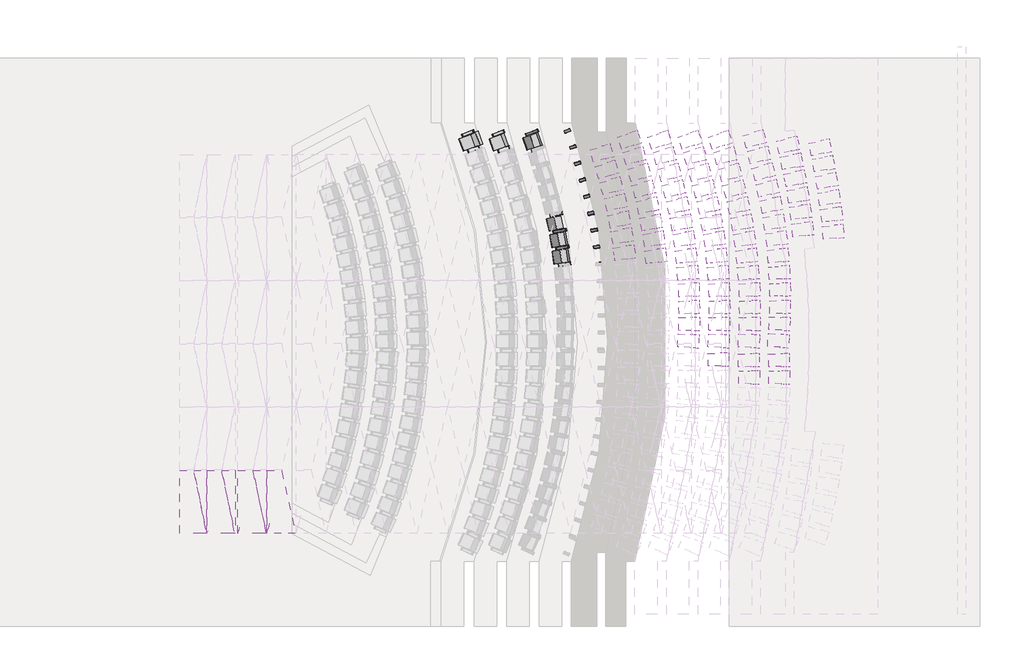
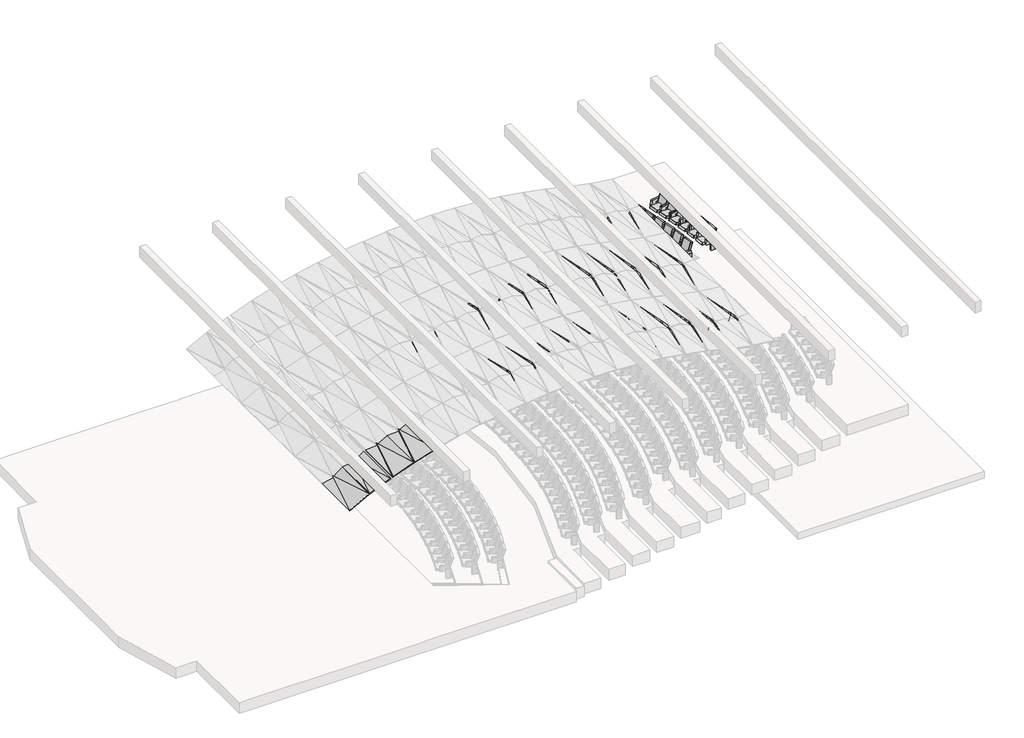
# One storey, part 4 of 5: 98 furniture elements, 4 proxies.
"""IFC4 building model written with IfcOpenShell, lengths in millimetres."""

from ifc_helpers import new_model, si_unit, origin, place, context, project, spatial, transform, mapped, element, save
from components import generic_models_b7cadb70, generic_models_e6cef362, generic_models_786d5ee3, generic_models_b94cf159, flex_6035_revit_flex_6035_revit_dbd431f0, flex_6035_revit_flex_6035_revit_8256f512

model = new_model("IFC4")

# Units and contexts
model_context = context("Model", 3, world=origin())
ifc_project = project(units=[si_unit("LENGTHUNIT", "METRE", prefix="MILLI")], contexts=[model_context])

# Site, building, storey
site = spatial("IfcSite", under=ifc_project)
building = spatial("IfcBuilding", under=site)
storey = spatial("IfcBuildingStorey", under=building, Name="0 WYSOKI PARTER", Elevation=0.0)

# Proxies
placement = place(None, origin())
generic_models_shape = generic_models_b7cadb70(model_context)
element("IfcBuildingElementProxy", 1, Name="panel sufitowy 6 : panel sufitowy 6", ObjectType="panel sufitowy 6 : panel sufitowy 6", at=placement, inside=storey, context=model_context, shape_type="MappedRepresentation", body=[
    mapped(generic_models_shape, transform((135632.7214389, 50845.1997788, 5259.4400615), x_axis=(-1.0, 0.0, 0.0), y_axis=(0.0, -1.0, 0.0), z_axis=(0.0, 0.0, 1.0))),
])
generic_models_2_shape = generic_models_e6cef362(model_context)
element("IfcBuildingElementProxy", 2, Name="panel sufitowy 6 : panel sufitowy 6", ObjectType="panel sufitowy 6 : panel sufitowy 6", at=placement, inside=storey, context=model_context, shape_type="MappedRepresentation", body=[
    mapped(generic_models_2_shape, transform((134659.1615643, 50845.1997788, 4964.216617), x_axis=(-1.0, 0.0, 0.0), y_axis=(0.0, -1.0, 0.0), z_axis=(0.0, 0.0, 1.0))),
])
generic_models_3_shape = generic_models_786d5ee3(model_context)
element("IfcBuildingElementProxy", 3, Name="panel sufitowy 6 : panel sufitowy 6", ObjectType="panel sufitowy 6 : panel sufitowy 6", at=placement, inside=storey, context=model_context, shape_type="MappedRepresentation", body=[
    mapped(generic_models_3_shape, transform((133610.0646602, 50845.1997788, 4599.555071), x_axis=(-1.0, 0.0, 0.0), y_axis=(0.0, -1.0, 0.0), z_axis=(0.0, 0.0, 1.0))),
])
generic_models_4_shape = generic_models_b94cf159(model_context)
element("IfcBuildingElementProxy", 4, Name="panel sufitowy 6 : panel sufitowy 6", ObjectType="panel sufitowy 6 : panel sufitowy 6", at=placement, inside=storey, context=model_context, shape_type="MappedRepresentation", body=[
    mapped(generic_models_4_shape, transform((132659.3547582, 50845.1997788, 4219.9166313), x_axis=(-1.0, 0.0, 0.0), y_axis=(0.0, -1.0, 0.0), z_axis=(0.0, 0.0, 1.0))),
])

# Furniture
flex_6035_revit_flex_6035_revit_shape = flex_6035_revit_flex_6035_revit_dbd431f0(model_context)
element("IfcFurniture", 5, ObjectType="flex_6035 revit : flex_6035 revit", at=placement, inside=storey, context=model_context, shape_type="MappedRepresentation", body=[
    mapped(flex_6035_revit_flex_6035_revit_shape, transform((149382.2167334, 56842.1523486, 2293.0), x_axis=(0.02060598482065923, -0.999787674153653, 0.0), y_axis=(0.999787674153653, 0.02060598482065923, 0.0), z_axis=(0.0, 0.0, 1.0))),
])
element("IfcFurniture", 6, ObjectType="flex_6035 revit : flex_6035 revit", at=placement, inside=storey, context=model_context, shape_type="MappedRepresentation", body=[
    mapped(flex_6035_revit_flex_6035_revit_shape, transform((150392.7739178, 56255.8254256, 2616.0), x_axis=(-0.013926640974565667, -0.999903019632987, 0.0), y_axis=(0.999903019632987, -0.013926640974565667, 0.0), z_axis=(0.0, 0.0, 1.0))),
])
element("IfcFurniture", 7, ObjectType="flex_6035 revit : flex_6035 revit", at=placement, inside=storey, context=model_context, shape_type="MappedRepresentation", body=[
    mapped(flex_6035_revit_flex_6035_revit_shape, transform((150381.9682109, 56819.8592265, 2616.0), x_axis=(0.02060598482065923, -0.999787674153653, 0.0), y_axis=(0.999787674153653, 0.02060598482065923, 0.0), z_axis=(0.0, 0.0, 1.0))),
])
element("IfcFurniture", 8, ObjectType="flex_6035 revit : flex_6035 revit", at=placement, inside=storey, context=model_context, shape_type="MappedRepresentation", body=[
    mapped(flex_6035_revit_flex_6035_revit_shape, transform((151393.0137306, 56255.8254256, 2945.0), x_axis=(-0.013926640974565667, -0.999903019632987, 0.0), y_axis=(0.999903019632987, -0.013926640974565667, 0.0), z_axis=(0.0, 0.0, 1.0))),
])
element("IfcFurniture", 9, ObjectType="flex_6035 revit : flex_6035 revit", at=placement, inside=storey, context=model_context, shape_type="MappedRepresentation", body=[
    mapped(flex_6035_revit_flex_6035_revit_shape, transform((151382.2080237, 56819.8592265, 2945.0), x_axis=(0.02060598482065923, -0.999787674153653, 0.0), y_axis=(0.999787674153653, 0.02060598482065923, 0.0), z_axis=(0.0, 0.0, 1.0))),
])
flex_6035_revit_flex_6035_revit_2_shape = flex_6035_revit_flex_6035_revit_8256f512(model_context)
element("IfcFurniture", 10, ObjectType="flex_6035 revit : flex_6035 revit", at=placement, inside=storey, context=model_context, shape_type="MappedRepresentation", body=[
    mapped(flex_6035_revit_flex_6035_revit_2_shape, transform((141196.0586013, 64067.9023012, 252.0), x_axis=(-0.3483684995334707, 0.9373576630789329, 0.0), y_axis=(-0.9373576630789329, -0.3483684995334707, 0.0), z_axis=(0.0, 0.0, 1.0))),
])
element("IfcFurniture", 11, ObjectType="flex_6035 revit : flex_6035 revit", at=placement, inside=storey, context=model_context, shape_type="MappedRepresentation", body=[
    mapped(flex_6035_revit_flex_6035_revit_2_shape, transform((142196.0589624, 64067.9023012, 516.0), x_axis=(-0.3483684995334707, 0.9373576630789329, 0.0), y_axis=(-0.9373576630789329, -0.3483684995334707, 0.0), z_axis=(0.0, 0.0, 1.0))),
])
element("IfcFurniture", 12, ObjectType="flex_6035 revit : flex_6035 revit", at=placement, inside=storey, context=model_context, shape_type="MappedRepresentation", body=[
    mapped(flex_6035_revit_flex_6035_revit_2_shape, transform((144177.3848225, 60826.4289256, 791.0), x_axis=(-0.18377887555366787, 0.9829676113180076, 0.0), y_axis=(-0.9829676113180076, -0.18377887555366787, 0.0), z_axis=(0.0, 0.0, 1.0))),
])
element("IfcFurniture", 13, ObjectType="flex_6035 revit : flex_6035 revit", at=placement, inside=storey, context=model_context, shape_type="MappedRepresentation", body=[
    mapped(flex_6035_revit_flex_6035_revit_2_shape, transform((144254.4349505, 60267.5596233, 791.0), x_axis=(-0.14972971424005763, 0.988726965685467, 0.0), y_axis=(-0.988726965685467, -0.14972971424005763, 0.0), z_axis=(0.0, 0.0, 1.0))),
])
element("IfcFurniture", 14, ObjectType="flex_6035 revit : flex_6035 revit", at=placement, inside=storey, context=model_context, shape_type="MappedRepresentation", body=[
    mapped(flex_6035_revit_flex_6035_revit_2_shape, transform((144077.6643298, 61368.9308082, 791.0), x_axis=(-0.21724572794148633, 0.9761169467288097, 0.0), y_axis=(-0.9761169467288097, -0.21724572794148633, 0.0), z_axis=(0.0, 0.0, 1.0))),
])
element("IfcFurniture", 15, ObjectType="flex_6035 revit : flex_6035 revit", at=placement, inside=storey, context=model_context, shape_type="MappedRepresentation", body=[
    mapped(flex_6035_revit_flex_6035_revit_2_shape, transform((143307.6299924, 64092.2979394, 791.0), x_axis=(-0.33255405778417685, 0.9430841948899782, 0.0), y_axis=(-0.9430841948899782, -0.33255405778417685, 0.0), z_axis=(0.0, 0.0, 1.0))),
])
element("IfcFurniture", 16, ObjectType="flex_6035 revit : flex_6035 revit", at=placement, inside=storey, context=model_context, shape_type="MappedRepresentation", body=[
    mapped(flex_6035_revit_flex_6035_revit_2_shape, transform((144697.2502765, 63030.1228614, 1074.0), x_axis=(-0.3074445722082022, 0.9515659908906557, 0.0), y_axis=(-0.9515659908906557, -0.3074445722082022, 0.0), z_axis=(0.0, 0.0, 1.0))),
])
element("IfcFurniture", 17, ObjectType="flex_6035 revit : flex_6035 revit", at=placement, inside=storey, context=model_context, shape_type="MappedRepresentation", body=[
    mapped(flex_6035_revit_flex_6035_revit_2_shape, transform((144846.5500626, 62486.1511513, 1074.0), x_axis=(-0.27440589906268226, 0.961613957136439, 0.0), y_axis=(-0.961613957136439, -0.27440589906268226, 0.0), z_axis=(0.0, 0.0, 1.0))),
])
element("IfcFurniture", 18, ObjectType="flex_6035 revit : flex_6035 revit", at=placement, inside=storey, context=model_context, shape_type="MappedRepresentation", body=[
    mapped(flex_6035_revit_flex_6035_revit_2_shape, transform((144986.0565979, 61939.7497267, 1074.0), x_axis=(-0.24103999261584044, 0.9705151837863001, 0.0), y_axis=(-0.9705151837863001, -0.24103999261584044, 0.0), z_axis=(0.0, 0.0, 1.0))),
])
element("IfcFurniture", 19, ObjectType="flex_6035 revit : flex_6035 revit", at=placement, inside=storey, context=model_context, shape_type="MappedRepresentation", body=[
    mapped(flex_6035_revit_flex_6035_revit_2_shape, transform((145197.963732, 60831.7939354, 1074.0), x_axis=(-0.17348598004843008, 0.9848363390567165, 0.0), y_axis=(-0.9848363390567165, -0.17348598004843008, 0.0), z_axis=(0.0, 0.0, 1.0))),
])
element("IfcFurniture", 20, ObjectType="flex_6035 revit : flex_6035 revit", at=placement, inside=storey, context=model_context, shape_type="MappedRepresentation", body=[
    mapped(flex_6035_revit_flex_6035_revit_2_shape, transform((145269.1633035, 60272.1491906, 1074.0), x_axis=(-0.1393784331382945, 0.9902391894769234, 0.0), y_axis=(-0.9902391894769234, -0.1393784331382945, 0.0), z_axis=(0.0, 0.0, 1.0))),
])
element("IfcFurniture", 21, ObjectType="flex_6035 revit : flex_6035 revit", at=placement, inside=storey, context=model_context, shape_type="MappedRepresentation", body=[
    mapped(flex_6035_revit_flex_6035_revit_2_shape, transform((145103.9238165, 61375.3093109, 1074.0), x_axis=(-0.20702266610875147, 0.978336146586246, 0.0), y_axis=(-0.978336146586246, -0.20702266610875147, 0.0), z_axis=(0.0, 0.0, 1.0))),
])
element("IfcFurniture", 22, ObjectType="flex_6035 revit : flex_6035 revit", at=placement, inside=storey, context=model_context, shape_type="MappedRepresentation", body=[
    mapped(flex_6035_revit_flex_6035_revit_2_shape, transform((144362.4207998, 64106.5827664, 1074.0), x_axis=(-0.32267024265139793, 0.9465114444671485, 0.0), y_axis=(-0.9465114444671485, -0.32267024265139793, 0.0), z_axis=(0.0, 0.0, 1.0))),
])
element("IfcFurniture", 23, ObjectType="flex_6035 revit : flex_6035 revit", at=placement, inside=storey, context=model_context, shape_type="MappedRepresentation", body=[
    mapped(flex_6035_revit_flex_6035_revit_2_shape, transform((144531.4184839, 63576.9190616, 1074.0), x_axis=(-0.27440589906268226, 0.961613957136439, 0.0), y_axis=(-0.961613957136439, -0.27440589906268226, 0.0), z_axis=(0.0, 0.0, 1.0))),
])
element("IfcFurniture", 24, ObjectType="flex_6035 revit : flex_6035 revit", at=placement, inside=storey, context=model_context, shape_type="MappedRepresentation", body=[
    mapped(flex_6035_revit_flex_6035_revit_2_shape, transform((145694.1659692, 63130.8225719, 1367.0), x_axis=(-0.310466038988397, 0.9505844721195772, 0.0), y_axis=(-0.9505844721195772, -0.310466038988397, 0.0), z_axis=(0.0, 0.0, 1.0))),
])
element("IfcFurniture", 25, ObjectType="flex_6035 revit : flex_6035 revit", at=placement, inside=storey, context=model_context, shape_type="MappedRepresentation", body=[
    mapped(flex_6035_revit_flex_6035_revit_2_shape, transform((145845.1931389, 62587.3279155, 1367.0), x_axis=(-0.2774594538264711, 0.9607373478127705, 0.0), y_axis=(-0.9607373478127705, -0.2774594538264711, 0.0), z_axis=(0.0, 0.0, 1.0))),
])
element("IfcFurniture", 26, ObjectType="flex_6035 revit : flex_6035 revit", at=placement, inside=storey, context=model_context, shape_type="MappedRepresentation", body=[
    mapped(flex_6035_revit_flex_6035_revit_2_shape, transform((145986.4348261, 62041.3724448, 1367.0), x_axis=(-0.24412199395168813, 0.9697445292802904, 0.0), y_axis=(-0.9697445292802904, -0.24412199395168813, 0.0), z_axis=(0.0, 0.0, 1.0))),
])
element("IfcFurniture", 27, ObjectType="flex_6035 revit : flex_6035 revit", at=placement, inside=storey, context=model_context, shape_type="MappedRepresentation", body=[
    mapped(flex_6035_revit_flex_6035_revit_2_shape, transform((146201.8607419, 60934.0954497, 1367.0), x_axis=(-0.1766138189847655, 0.9842802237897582, 0.0), y_axis=(-0.9842802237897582, -0.1766138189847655, 0.0), z_axis=(0.0, 0.0, 1.0))),
])
element("IfcFurniture", 28, ObjectType="flex_6035 revit : flex_6035 revit", at=placement, inside=storey, context=model_context, shape_type="MappedRepresentation", body=[
    mapped(flex_6035_revit_flex_6035_revit_2_shape, transform((146274.8378826, 60374.6797221, 1367.0), x_axis=(-0.14252360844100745, 0.989791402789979, 0.0), y_axis=(-0.989791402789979, -0.14252360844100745, 0.0), z_axis=(0.0, 0.0, 1.0))),
])
element("IfcFurniture", 29, ObjectType="flex_6035 revit : flex_6035 revit", at=placement, inside=storey, context=model_context, shape_type="MappedRepresentation", body=[
    mapped(flex_6035_revit_flex_6035_revit_2_shape, transform((146106.0946137, 61477.3093283, 1367.0), x_axis=(-0.21012968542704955, 0.9776735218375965, 0.0), y_axis=(-0.9776735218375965, -0.21012968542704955, 0.0), z_axis=(0.0, 0.0, 1.0))),
])
element("IfcFurniture", 30, ObjectType="flex_6035 revit : flex_6035 revit", at=placement, inside=storey, context=model_context, shape_type="MappedRepresentation", body=[
    mapped(flex_6035_revit_flex_6035_revit_2_shape, transform((145526.5979033, 63677.0891837, 1367.0), x_axis=(-0.2774594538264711, 0.9607373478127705, 0.0), y_axis=(-0.9607373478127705, -0.2774594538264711, 0.0), z_axis=(0.0, 0.0, 1.0))),
])
element("IfcFurniture", 31, ObjectType="flex_6035 revit : flex_6035 revit", at=placement, inside=storey, context=model_context, shape_type="MappedRepresentation", body=[
    mapped(flex_6035_revit_flex_6035_revit_2_shape, transform((146765.9358226, 63034.940876, 1668.0), x_axis=(-0.2983146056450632, 0.9544675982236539, 0.0), y_axis=(-0.9544675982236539, -0.2983146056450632, 0.0), z_axis=(0.0, 0.0, 1.0))),
])
element("IfcFurniture", 32, ObjectType="flex_6035 revit : flex_6035 revit", at=placement, inside=storey, context=model_context, shape_type="MappedRepresentation", body=[
    mapped(flex_6035_revit_flex_6035_revit_2_shape, transform((146910.0175907, 62489.5638582, 1668.0), x_axis=(-0.26518119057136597, 0.9641985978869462, 0.0), y_axis=(-0.9641985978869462, -0.26518119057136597, 0.0), z_axis=(0.0, 0.0, 1.0))),
])
element("IfcFurniture", 33, ObjectType="flex_6035 revit : flex_6035 revit", at=placement, inside=storey, context=model_context, shape_type="MappedRepresentation", body=[
    mapped(flex_6035_revit_flex_6035_revit_2_shape, transform((147044.2832812, 61941.8510552, 1668.0), x_axis=(-0.2317315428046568, 0.9727797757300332, 0.0), y_axis=(-0.9727797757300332, -0.2317315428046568, 0.0), z_axis=(0.0, 0.0, 1.0))),
])
element("IfcFurniture", 34, ObjectType="flex_6035 revit : flex_6035 revit", at=placement, inside=storey, context=model_context, shape_type="MappedRepresentation", body=[
    mapped(flex_6035_revit_flex_6035_revit_2_shape, transform((147245.566642, 60831.9160671, 1668.0), x_axis=(-0.16404343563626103, 0.9864531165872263, 0.0), y_axis=(-0.9864531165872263, -0.16404343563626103, 0.0), z_axis=(0.0, 0.0, 1.0))),
])
element("IfcFurniture", 35, ObjectType="flex_6035 revit : flex_6035 revit", at=placement, inside=storey, context=model_context, shape_type="MappedRepresentation", body=[
    mapped(flex_6035_revit_flex_6035_revit_2_shape, transform((147311.4016342, 60271.6149221, 1668.0), x_axis=(-0.12988569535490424, 0.991528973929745, 0.0), y_axis=(-0.991528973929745, -0.12988569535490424, 0.0), z_axis=(0.0, 0.0, 1.0))),
])
element("IfcFurniture", 36, ObjectType="flex_6035 revit : flex_6035 revit", at=placement, inside=storey, context=model_context, shape_type="MappedRepresentation", body=[
    mapped(flex_6035_revit_flex_6035_revit_2_shape, transform((147156.7378371, 61376.3073902, 1668.0), x_axis=(-0.19764085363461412, 0.9802744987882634, 0.0), y_axis=(-0.9802744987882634, -0.19764085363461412, 0.0), z_axis=(0.0, 0.0, 1.0))),
])
element("IfcFurniture", 37, ObjectType="flex_6035 revit : flex_6035 revit", at=placement, inside=storey, context=model_context, shape_type="MappedRepresentation", body=[
    mapped(flex_6035_revit_flex_6035_revit_2_shape, transform((146441.4340339, 64114.5590005, 1668.0), x_axis=(-0.3135879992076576, 0.9495591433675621, 0.0), y_axis=(-0.9495591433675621, -0.3135879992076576, 0.0), z_axis=(0.0, 0.0, 1.0))),
])
element("IfcFurniture", 38, ObjectType="flex_6035 revit : flex_6035 revit", at=placement, inside=storey, context=model_context, shape_type="MappedRepresentation", body=[
    mapped(flex_6035_revit_flex_6035_revit_2_shape, transform((146605.3498647, 63583.3006285, 1668.0), x_axis=(-0.26518119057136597, 0.9641985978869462, 0.0), y_axis=(-0.9641985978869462, -0.26518119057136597, 0.0), z_axis=(0.0, 0.0, 1.0))),
])
element("IfcFurniture", 39, ObjectType="flex_6035 revit : flex_6035 revit", at=placement, inside=storey, context=model_context, shape_type="MappedRepresentation", body=[
    mapped(flex_6035_revit_flex_6035_revit_2_shape, transform((147765.9361878, 63034.940876, 1977.0), x_axis=(-0.2983146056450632, 0.9544675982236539, 0.0), y_axis=(-0.9544675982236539, -0.2983146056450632, 0.0), z_axis=(0.0, 0.0, 1.0))),
])
element("IfcFurniture", 40, ObjectType="flex_6035 revit : flex_6035 revit", at=placement, inside=storey, context=model_context, shape_type="MappedRepresentation", body=[
    mapped(flex_6035_revit_flex_6035_revit_2_shape, transform((147910.0179559, 62489.5638582, 1977.0), x_axis=(-0.26518119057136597, 0.9641985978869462, 0.0), y_axis=(-0.9641985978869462, -0.26518119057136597, 0.0), z_axis=(0.0, 0.0, 1.0))),
])
element("IfcFurniture", 41, ObjectType="flex_6035 revit : flex_6035 revit", at=placement, inside=storey, context=model_context, shape_type="MappedRepresentation", body=[
    mapped(flex_6035_revit_flex_6035_revit_2_shape, transform((148044.2836463, 61941.8510552, 1977.0), x_axis=(-0.2317315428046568, 0.9727797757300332, 0.0), y_axis=(-0.9727797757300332, -0.2317315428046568, 0.0), z_axis=(0.0, 0.0, 1.0))),
])
element("IfcFurniture", 42, ObjectType="flex_6035 revit : flex_6035 revit", at=placement, inside=storey, context=model_context, shape_type="MappedRepresentation", body=[
    mapped(flex_6035_revit_flex_6035_revit_2_shape, transform((148245.5670072, 60831.9160671, 1977.0), x_axis=(-0.16404343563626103, 0.9864531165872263, 0.0), y_axis=(-0.9864531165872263, -0.16404343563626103, 0.0), z_axis=(0.0, 0.0, 1.0))),
])
element("IfcFurniture", 43, ObjectType="flex_6035 revit : flex_6035 revit", at=placement, inside=storey, context=model_context, shape_type="MappedRepresentation", body=[
    mapped(flex_6035_revit_flex_6035_revit_2_shape, transform((148311.4019993, 60271.6149221, 1977.0), x_axis=(-0.12988569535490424, 0.991528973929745, 0.0), y_axis=(-0.991528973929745, -0.12988569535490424, 0.0), z_axis=(0.0, 0.0, 1.0))),
])
element("IfcFurniture", 44, ObjectType="flex_6035 revit : flex_6035 revit", at=placement, inside=storey, context=model_context, shape_type="MappedRepresentation", body=[
    mapped(flex_6035_revit_flex_6035_revit_2_shape, transform((148367.8279123, 59710.5375876, 1977.0), x_axis=(-0.09557306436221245, 0.9954224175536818, 0.0), y_axis=(-0.9954224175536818, -0.09557306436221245, 0.0), z_axis=(0.0, 0.0, 1.0))),
])
element("IfcFurniture", 45, ObjectType="flex_6035 revit : flex_6035 revit", at=placement, inside=storey, context=model_context, shape_type="MappedRepresentation", body=[
    mapped(flex_6035_revit_flex_6035_revit_2_shape, transform((148406.3417782, 59147.7950751, 1977.0), x_axis=(-0.06114646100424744, 0.9981288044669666, 0.0), y_axis=(-0.9981288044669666, -0.06114646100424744, 0.0), z_axis=(0.0, 0.0, 1.0))),
])
element("IfcFurniture", 46, ObjectType="flex_6035 revit : flex_6035 revit", at=placement, inside=storey, context=model_context, shape_type="MappedRepresentation", body=[
    mapped(flex_6035_revit_flex_6035_revit_2_shape, transform((148410.8102434, 58019.5294024, 1977.0), x_axis=(0.007884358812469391, 0.9999689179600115, 0.0), y_axis=(-0.9999689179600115, 0.007884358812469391, 0.0), z_axis=(0.0, 0.0, 1.0))),
])
element("IfcFurniture", 47, ObjectType="flex_6035 revit : flex_6035 revit", at=placement, inside=storey, context=model_context, shape_type="MappedRepresentation", body=[
    mapped(flex_6035_revit_flex_6035_revit_2_shape, transform((148414.6359108, 58574.6415459, 1977.0), x_axis=(-0.043717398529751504, 0.9990439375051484, 0.0), y_axis=(-0.9990439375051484, -0.043717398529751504, 0.0), z_axis=(0.0, 0.0, 1.0))),
])
element("IfcFurniture", 48, ObjectType="flex_6035 revit : flex_6035 revit", at=placement, inside=storey, context=model_context, shape_type="MappedRepresentation", body=[
    mapped(flex_6035_revit_flex_6035_revit_2_shape, transform((148156.7382023, 61376.3073902, 1977.0), x_axis=(-0.19764085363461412, 0.9802744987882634, 0.0), y_axis=(-0.9802744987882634, -0.19764085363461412, 0.0), z_axis=(0.0, 0.0, 1.0))),
])
element("IfcFurniture", 49, ObjectType="flex_6035 revit : flex_6035 revit", at=placement, inside=storey, context=model_context, shape_type="MappedRepresentation", body=[
    mapped(flex_6035_revit_flex_6035_revit_2_shape, transform((148387.7056411, 57455.865434, 1977.0), x_axis=(0.04240625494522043, 0.9991004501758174, 0.0), y_axis=(-0.9991004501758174, 0.04240625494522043, 0.0), z_axis=(0.0, 0.0, 1.0))),
])
element("IfcFurniture", 50, ObjectType="flex_6035 revit : flex_6035 revit", at=placement, inside=storey, context=model_context, shape_type="MappedRepresentation", body=[
    mapped(flex_6035_revit_flex_6035_revit_2_shape, transform((147441.4343991, 64114.5590005, 1977.0), x_axis=(-0.3135879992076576, 0.9495591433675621, 0.0), y_axis=(-0.9495591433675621, -0.3135879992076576, 0.0), z_axis=(0.0, 0.0, 1.0))),
])
element("IfcFurniture", 51, ObjectType="flex_6035 revit : flex_6035 revit", at=placement, inside=storey, context=model_context, shape_type="MappedRepresentation", body=[
    mapped(flex_6035_revit_flex_6035_revit_2_shape, transform((147605.3502299, 63583.3006285, 1977.0), x_axis=(-0.26518119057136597, 0.9641985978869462, 0.0), y_axis=(-0.9641985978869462, -0.26518119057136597, 0.0), z_axis=(0.0, 0.0, 1.0))),
])
element("IfcFurniture", 52, ObjectType="flex_6035 revit : flex_6035 revit", at=placement, inside=storey, context=model_context, shape_type="MappedRepresentation", body=[
    mapped(flex_6035_revit_flex_6035_revit_2_shape, transform((148767.2116598, 63034.940876, 2293.0), x_axis=(-0.2983146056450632, 0.9544675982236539, 0.0), y_axis=(-0.9544675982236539, -0.2983146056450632, 0.0), z_axis=(0.0, 0.0, 1.0))),
])
element("IfcFurniture", 53, ObjectType="flex_6035 revit : flex_6035 revit", at=placement, inside=storey, context=model_context, shape_type="MappedRepresentation", body=[
    mapped(flex_6035_revit_flex_6035_revit_2_shape, transform((148911.2934279, 62489.5638582, 2293.0), x_axis=(-0.26518119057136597, 0.9641985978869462, 0.0), y_axis=(-0.9641985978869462, -0.26518119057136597, 0.0), z_axis=(0.0, 0.0, 1.0))),
])
element("IfcFurniture", 54, ObjectType="flex_6035 revit : flex_6035 revit", at=placement, inside=storey, context=model_context, shape_type="MappedRepresentation", body=[
    mapped(flex_6035_revit_flex_6035_revit_2_shape, transform((149045.5591184, 61941.8510552, 2293.0), x_axis=(-0.2317315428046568, 0.9727797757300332, 0.0), y_axis=(-0.9727797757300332, -0.2317315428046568, 0.0), z_axis=(0.0, 0.0, 1.0))),
])
element("IfcFurniture", 55, ObjectType="flex_6035 revit : flex_6035 revit", at=placement, inside=storey, context=model_context, shape_type="MappedRepresentation", body=[
    mapped(flex_6035_revit_flex_6035_revit_2_shape, transform((149246.8424792, 60831.9160671, 2293.0), x_axis=(-0.16404343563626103, 0.9864531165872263, 0.0), y_axis=(-0.9864531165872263, -0.16404343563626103, 0.0), z_axis=(0.0, 0.0, 1.0))),
])
element("IfcFurniture", 56, ObjectType="flex_6035 revit : flex_6035 revit", at=placement, inside=storey, context=model_context, shape_type="MappedRepresentation", body=[
    mapped(flex_6035_revit_flex_6035_revit_2_shape, transform((149312.6774714, 60271.6149221, 2293.0), x_axis=(-0.12988569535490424, 0.991528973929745, 0.0), y_axis=(-0.991528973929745, -0.12988569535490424, 0.0), z_axis=(0.0, 0.0, 1.0))),
])
element("IfcFurniture", 57, ObjectType="flex_6035 revit : flex_6035 revit", at=placement, inside=storey, context=model_context, shape_type="MappedRepresentation", body=[
    mapped(flex_6035_revit_flex_6035_revit_2_shape, transform((149369.1033843, 59710.5375876, 2293.0), x_axis=(-0.09557306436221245, 0.9954224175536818, 0.0), y_axis=(-0.9954224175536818, -0.09557306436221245, 0.0), z_axis=(0.0, 0.0, 1.0))),
])
element("IfcFurniture", 58, ObjectType="flex_6035 revit : flex_6035 revit", at=placement, inside=storey, context=model_context, shape_type="MappedRepresentation", body=[
    mapped(flex_6035_revit_flex_6035_revit_2_shape, transform((149407.6172502, 59147.7950751, 2293.0), x_axis=(-0.06114646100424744, 0.9981288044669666, 0.0), y_axis=(-0.9981288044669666, -0.06114646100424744, 0.0), z_axis=(0.0, 0.0, 1.0))),
])
element("IfcFurniture", 59, ObjectType="flex_6035 revit : flex_6035 revit", at=placement, inside=storey, context=model_context, shape_type="MappedRepresentation", body=[
    mapped(flex_6035_revit_flex_6035_revit_2_shape, transform((149412.0857154, 58019.5294024, 2293.0), x_axis=(0.007884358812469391, 0.9999689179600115, 0.0), y_axis=(-0.9999689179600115, 0.007884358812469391, 0.0), z_axis=(0.0, 0.0, 1.0))),
])
element("IfcFurniture", 60, ObjectType="flex_6035 revit : flex_6035 revit", at=placement, inside=storey, context=model_context, shape_type="MappedRepresentation", body=[
    mapped(flex_6035_revit_flex_6035_revit_2_shape, transform((149415.9113828, 58574.6415459, 2293.0), x_axis=(-0.043717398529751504, 0.9990439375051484, 0.0), y_axis=(-0.9990439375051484, -0.043717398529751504, 0.0), z_axis=(0.0, 0.0, 1.0))),
])
element("IfcFurniture", 61, ObjectType="flex_6035 revit : flex_6035 revit", at=placement, inside=storey, context=model_context, shape_type="MappedRepresentation", body=[
    mapped(flex_6035_revit_flex_6035_revit_2_shape, transform((149158.0136743, 61376.3073902, 2293.0), x_axis=(-0.19764085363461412, 0.9802744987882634, 0.0), y_axis=(-0.9802744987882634, -0.19764085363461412, 0.0), z_axis=(0.0, 0.0, 1.0))),
])
element("IfcFurniture", 62, ObjectType="flex_6035 revit : flex_6035 revit", at=placement, inside=storey, context=model_context, shape_type="MappedRepresentation", body=[
    mapped(flex_6035_revit_flex_6035_revit_2_shape, transform((149388.9811131, 57455.865434, 2293.0), x_axis=(0.04240625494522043, 0.9991004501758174, 0.0), y_axis=(-0.9991004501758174, 0.04240625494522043, 0.0), z_axis=(0.0, 0.0, 1.0))),
])
element("IfcFurniture", 63, ObjectType="flex_6035 revit : flex_6035 revit", at=placement, inside=storey, context=model_context, shape_type="MappedRepresentation", body=[
    mapped(flex_6035_revit_flex_6035_revit_2_shape, transform((148442.7098711, 64114.5590005, 2293.0), x_axis=(-0.3135879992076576, 0.9495591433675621, 0.0), y_axis=(-0.9495591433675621, -0.3135879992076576, 0.0), z_axis=(0.0, 0.0, 1.0))),
])
element("IfcFurniture", 64, ObjectType="flex_6035 revit : flex_6035 revit", at=placement, inside=storey, context=model_context, shape_type="MappedRepresentation", body=[
    mapped(flex_6035_revit_flex_6035_revit_2_shape, transform((148606.6257019, 63583.3006285, 2293.0), x_axis=(-0.26518119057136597, 0.9641985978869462, 0.0), y_axis=(-0.9641985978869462, -0.26518119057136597, 0.0), z_axis=(0.0, 0.0, 1.0))),
])
element("IfcFurniture", 65, ObjectType="flex_6035 revit : flex_6035 revit", at=placement, inside=storey, context=model_context, shape_type="MappedRepresentation", body=[
    mapped(flex_6035_revit_flex_6035_revit_2_shape, transform((149767.2116885, 63034.940876, 2616.0), x_axis=(-0.2983146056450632, 0.9544675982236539, 0.0), y_axis=(-0.9544675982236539, -0.2983146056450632, 0.0), z_axis=(0.0, 0.0, 1.0))),
])
element("IfcFurniture", 66, ObjectType="flex_6035 revit : flex_6035 revit", at=placement, inside=storey, context=model_context, shape_type="MappedRepresentation", body=[
    mapped(flex_6035_revit_flex_6035_revit_2_shape, transform((149911.2934566, 62489.5638582, 2616.0), x_axis=(-0.26518119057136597, 0.9641985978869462, 0.0), y_axis=(-0.9641985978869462, -0.26518119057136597, 0.0), z_axis=(0.0, 0.0, 1.0))),
])
element("IfcFurniture", 67, ObjectType="flex_6035 revit : flex_6035 revit", at=placement, inside=storey, context=model_context, shape_type="MappedRepresentation", body=[
    mapped(flex_6035_revit_flex_6035_revit_2_shape, transform((150045.559147, 61941.8510552, 2616.0), x_axis=(-0.2317315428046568, 0.9727797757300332, 0.0), y_axis=(-0.9727797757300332, -0.2317315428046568, 0.0), z_axis=(0.0, 0.0, 1.0))),
])
element("IfcFurniture", 68, ObjectType="flex_6035 revit : flex_6035 revit", at=placement, inside=storey, context=model_context, shape_type="MappedRepresentation", body=[
    mapped(flex_6035_revit_flex_6035_revit_2_shape, transform((150246.8425079, 60831.9160671, 2616.0), x_axis=(-0.16404343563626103, 0.9864531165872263, 0.0), y_axis=(-0.9864531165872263, -0.16404343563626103, 0.0), z_axis=(0.0, 0.0, 1.0))),
])
element("IfcFurniture", 69, ObjectType="flex_6035 revit : flex_6035 revit", at=placement, inside=storey, context=model_context, shape_type="MappedRepresentation", body=[
    mapped(flex_6035_revit_flex_6035_revit_2_shape, transform((150312.6775, 60271.6149221, 2616.0), x_axis=(-0.12988569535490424, 0.991528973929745, 0.0), y_axis=(-0.991528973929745, -0.12988569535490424, 0.0), z_axis=(0.0, 0.0, 1.0))),
])
element("IfcFurniture", 70, ObjectType="flex_6035 revit : flex_6035 revit", at=placement, inside=storey, context=model_context, shape_type="MappedRepresentation", body=[
    mapped(flex_6035_revit_flex_6035_revit_2_shape, transform((150369.103413, 59710.5375876, 2616.0), x_axis=(-0.09557306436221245, 0.9954224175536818, 0.0), y_axis=(-0.9954224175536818, -0.09557306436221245, 0.0), z_axis=(0.0, 0.0, 1.0))),
])
element("IfcFurniture", 71, ObjectType="flex_6035 revit : flex_6035 revit", at=placement, inside=storey, context=model_context, shape_type="MappedRepresentation", body=[
    mapped(flex_6035_revit_flex_6035_revit_2_shape, transform((150407.6172789, 59147.7950751, 2616.0), x_axis=(-0.06114646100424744, 0.9981288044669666, 0.0), y_axis=(-0.9981288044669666, -0.06114646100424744, 0.0), z_axis=(0.0, 0.0, 1.0))),
])
element("IfcFurniture", 72, ObjectType="flex_6035 revit : flex_6035 revit", at=placement, inside=storey, context=model_context, shape_type="MappedRepresentation", body=[
    mapped(flex_6035_revit_flex_6035_revit_2_shape, transform((150412.0857441, 58019.5294024, 2616.0), x_axis=(0.007884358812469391, 0.9999689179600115, 0.0), y_axis=(-0.9999689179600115, 0.007884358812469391, 0.0), z_axis=(0.0, 0.0, 1.0))),
])
element("IfcFurniture", 73, ObjectType="flex_6035 revit : flex_6035 revit", at=placement, inside=storey, context=model_context, shape_type="MappedRepresentation", body=[
    mapped(flex_6035_revit_flex_6035_revit_2_shape, transform((150415.9114115, 58574.6415459, 2616.0), x_axis=(-0.043717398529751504, 0.9990439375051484, 0.0), y_axis=(-0.9990439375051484, -0.043717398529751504, 0.0), z_axis=(0.0, 0.0, 1.0))),
])
element("IfcFurniture", 74, ObjectType="flex_6035 revit : flex_6035 revit", at=placement, inside=storey, context=model_context, shape_type="MappedRepresentation", body=[
    mapped(flex_6035_revit_flex_6035_revit_2_shape, transform((150158.013703, 61376.3073902, 2616.0), x_axis=(-0.19764085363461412, 0.9802744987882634, 0.0), y_axis=(-0.9802744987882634, -0.19764085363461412, 0.0), z_axis=(0.0, 0.0, 1.0))),
])
element("IfcFurniture", 75, ObjectType="flex_6035 revit : flex_6035 revit", at=placement, inside=storey, context=model_context, shape_type="MappedRepresentation", body=[
    mapped(flex_6035_revit_flex_6035_revit_2_shape, transform((150388.9811418, 57455.865434, 2616.0), x_axis=(0.04240625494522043, 0.9991004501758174, 0.0), y_axis=(-0.9991004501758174, 0.04240625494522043, 0.0), z_axis=(0.0, 0.0, 1.0))),
])
element("IfcFurniture", 76, ObjectType="flex_6035 revit : flex_6035 revit", at=placement, inside=storey, context=model_context, shape_type="MappedRepresentation", body=[
    mapped(flex_6035_revit_flex_6035_revit_2_shape, transform((149442.7098998, 64114.5590005, 2616.0), x_axis=(-0.3135879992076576, 0.9495591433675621, 0.0), y_axis=(-0.9495591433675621, -0.3135879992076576, 0.0), z_axis=(0.0, 0.0, 1.0))),
])
element("IfcFurniture", 77, ObjectType="flex_6035 revit : flex_6035 revit", at=placement, inside=storey, context=model_context, shape_type="MappedRepresentation", body=[
    mapped(flex_6035_revit_flex_6035_revit_2_shape, transform((149606.6257306, 63583.3006285, 2616.0), x_axis=(-0.26518119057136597, 0.9641985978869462, 0.0), y_axis=(-0.9641985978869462, -0.26518119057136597, 0.0), z_axis=(0.0, 0.0, 1.0))),
])
element("IfcFurniture", 78, ObjectType="flex_6035 revit : flex_6035 revit", at=placement, inside=storey, context=model_context, shape_type="MappedRepresentation", body=[
    mapped(flex_6035_revit_flex_6035_revit_2_shape, transform((150872.6147593, 63056.4805574, 2945.0), x_axis=(-0.2756637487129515, 0.9612541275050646, 0.0), y_axis=(-0.9612541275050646, -0.2756637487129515, 0.0), z_axis=(0.0, 0.0, 1.0))),
])
element("IfcFurniture", 79, ObjectType="flex_6035 revit : flex_6035 revit", at=placement, inside=storey, context=model_context, shape_type="MappedRepresentation", body=[
    mapped(flex_6035_revit_flex_6035_revit_2_shape, transform((151003.7613375, 62507.8493311, 2945.0), x_axis=(-0.24230951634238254, 0.9701989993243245, 0.0), y_axis=(-0.9701989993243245, -0.24230951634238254, 0.0), z_axis=(0.0, 0.0, 1.0))),
])
element("IfcFurniture", 80, ObjectType="flex_6035 revit : flex_6035 revit", at=placement, inside=storey, context=model_context, shape_type="MappedRepresentation", body=[
    mapped(flex_6035_revit_flex_6035_revit_2_shape, transform((151125.0393549, 61957.1150642, 2945.0), x_axis=(-0.20866632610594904, 0.977986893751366, 0.0), y_axis=(-0.977986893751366, -0.20866632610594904, 0.0), z_axis=(0.0, 0.0, 1.0))),
])
element("IfcFurniture", 81, ObjectType="flex_6035 revit : flex_6035 revit", at=placement, inside=storey, context=model_context, shape_type="MappedRepresentation", body=[
    mapped(flex_6035_revit_flex_6035_revit_2_shape, transform((151300.0231092, 60842.7312188, 2945.0), x_axis=(-0.1406738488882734, 0.9900559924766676, 0.0), y_axis=(-0.9900559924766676, -0.1406738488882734, 0.0), z_axis=(0.0, 0.0, 1.0))),
])
element("IfcFurniture", 82, ObjectType="flex_6035 revit : flex_6035 revit", at=placement, inside=storey, context=model_context, shape_type="MappedRepresentation", body=[
    mapped(flex_6035_revit_flex_6035_revit_2_shape, transform((151352.5919196, 60281.0301066, 2945.0), x_axis=(-0.10640564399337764, 0.9943228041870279, 0.0), y_axis=(-0.9943228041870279, -0.10640564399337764, 0.0), z_axis=(0.0, 0.0, 1.0))),
])
element("IfcFurniture", 83, ObjectType="flex_6035 revit : flex_6035 revit", at=placement, inside=storey, context=model_context, shape_type="MappedRepresentation", body=[
    mapped(flex_6035_revit_flex_6035_revit_2_shape, transform((151395.735929, 59718.7754904, 2945.0), x_axis=(-0.07201054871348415, 0.9974038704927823, 0.0), y_axis=(-0.9974038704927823, -0.07201054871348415, 0.0), z_axis=(0.0, 0.0, 1.0))),
])
element("IfcFurniture", 84, ObjectType="flex_6035 revit : flex_6035 revit", at=placement, inside=storey, context=model_context, shape_type="MappedRepresentation", body=[
    mapped(flex_6035_revit_flex_6035_revit_2_shape, transform((151420.9335272, 59155.2796747, 2945.0), x_axis=(-0.03752957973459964, 0.9992955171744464, 0.0), y_axis=(-0.9992955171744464, -0.03752957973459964, 0.0), z_axis=(0.0, 0.0, 1.0))),
])
element("IfcFurniture", 85, ObjectType="flex_6035 revit : flex_6035 revit", at=placement, inside=storey, context=model_context, shape_type="MappedRepresentation", body=[
    mapped(flex_6035_revit_flex_6035_revit_2_shape, transform((151398.723996, 58027.2237665, 2945.0), x_axis=(0.03152544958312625, 0.9995029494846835, 0.0), y_axis=(-0.9995029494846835, 0.03152544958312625, 0.0), z_axis=(0.0, 0.0, 1.0))),
])
element("IfcFurniture", 86, ObjectType="flex_6035 revit : flex_6035 revit", at=placement, inside=storey, context=model_context, shape_type="MappedRepresentation", body=[
    mapped(flex_6035_revit_flex_6035_revit_2_shape, transform((151415.673682, 58582.0902692, 2945.0), x_axis=(-0.02008375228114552, 0.9997983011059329, 0.0), y_axis=(-0.9997983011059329, -0.02008375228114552, 0.0), z_axis=(0.0, 0.0, 1.0))),
])
element("IfcFurniture", 87, ObjectType="flex_6035 revit : flex_6035 revit", at=placement, inside=storey, context=model_context, shape_type="MappedRepresentation", body=[
    mapped(flex_6035_revit_flex_6035_revit_2_shape, transform((151224.0907419, 61389.0706232, 2945.0), x_axis=(-0.1744079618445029, 0.9846734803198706, 0.0), y_axis=(-0.9846734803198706, -0.1744079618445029, 0.0), z_axis=(0.0, 0.0, 1.0))),
])
element("IfcFurniture", 88, ObjectType="flex_6035 revit : flex_6035 revit", at=placement, inside=storey, context=model_context, shape_type="MappedRepresentation", body=[
    mapped(flex_6035_revit_flex_6035_revit_2_shape, transform((151362.2985651, 57464.2636614, 2945.0), x_axis=(0.0660171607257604, 0.9978184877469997, 0.0), y_axis=(-0.9978184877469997, 0.0660171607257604, 0.0), z_axis=(0.0, 0.0, 1.0))),
])
element("IfcFurniture", 89, ObjectType="flex_6035 revit : flex_6035 revit", at=placement, inside=storey, context=model_context, shape_type="MappedRepresentation", body=[
    mapped(flex_6035_revit_flex_6035_revit_2_shape, transform((150573.7302111, 64143.4693947, 2945.0), x_axis=(-0.2910489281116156, 0.956708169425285, 0.0), y_axis=(-0.956708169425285, -0.2910489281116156, 0.0), z_axis=(0.0, 0.0, 1.0))),
])
element("IfcFurniture", 90, ObjectType="flex_6035 revit : flex_6035 revit", at=placement, inside=storey, context=model_context, shape_type="MappedRepresentation", body=[
    mapped(flex_6035_revit_flex_6035_revit_2_shape, transform((150725.039129, 63608.48391, 2945.0), x_axis=(-0.24230951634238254, 0.9701989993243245, 0.0), y_axis=(-0.9701989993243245, -0.24230951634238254, 0.0), z_axis=(0.0, 0.0, 1.0))),
])
element("IfcFurniture", 91, ObjectType="flex_6035 revit : flex_6035 revit", at=placement, inside=storey, context=model_context, shape_type="MappedRepresentation", body=[
    mapped(flex_6035_revit_flex_6035_revit_2_shape, transform((151912.3521863, 62838.0347227, 3280.0), x_axis=(-0.21503616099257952, 0.9766060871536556, 0.0), y_axis=(-0.9766060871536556, -0.21503616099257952, 0.0), z_axis=(0.0, 0.0, 1.0))),
])
element("IfcFurniture", 92, ObjectType="flex_6035 revit : flex_6035 revit", at=placement, inside=storey, context=model_context, shape_type="MappedRepresentation", body=[
    mapped(flex_6035_revit_flex_6035_revit_2_shape, transform((152008.9470711, 62282.278413, 3280.0), x_axis=(-0.18118801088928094, 0.9834484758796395, 0.0), y_axis=(-0.9834484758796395, -0.18118801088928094, 0.0), z_axis=(0.0, 0.0, 1.0))),
])
element("IfcFurniture", 93, ObjectType="flex_6035 revit : flex_6035 revit", at=placement, inside=storey, context=model_context, shape_type="MappedRepresentation", body=[
    mapped(flex_6035_revit_flex_6035_revit_2_shape, transform((152095.5612327, 61725.0400644, 3280.0), x_axis=(-0.1471237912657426, 0.9891180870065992, 0.0), y_axis=(-0.9891180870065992, -0.1471237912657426, 0.0), z_axis=(0.0, 0.0, 1.0))),
])
element("IfcFurniture", 94, ObjectType="flex_6035 revit : flex_6035 revit", at=placement, inside=storey, context=model_context, shape_type="MappedRepresentation", body=[
    mapped(flex_6035_revit_flex_6035_revit_2_shape, transform((152158.9101648, 61151.9147927, 3280.0), x_axis=(-0.11251444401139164, 0.9936500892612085, 0.0), y_axis=(-0.9936500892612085, -0.11251444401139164, 0.0), z_axis=(0.0, 0.0, 1.0))),
])
element("IfcFurniture", 95, ObjectType="flex_6035 revit : flex_6035 revit", at=placement, inside=storey, context=model_context, shape_type="MappedRepresentation", body=[
    mapped(flex_6035_revit_flex_6035_revit_2_shape, transform((151682.000378, 63941.5811648, 3280.0), x_axis=(-0.23067542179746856, 0.973030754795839, 0.0), y_axis=(-0.973030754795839, -0.23067542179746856, 0.0), z_axis=(0.0, 0.0, 1.0))),
])
element("IfcFurniture", 96, ObjectType="flex_6035 revit : flex_6035 revit", at=placement, inside=storey, context=model_context, shape_type="MappedRepresentation", body=[
    mapped(flex_6035_revit_flex_6035_revit_2_shape, transform((151799.5711731, 63398.183552, 3280.0), x_axis=(-0.18118801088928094, 0.9834484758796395, 0.0), y_axis=(-0.9834484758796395, -0.18118801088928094, 0.0), z_axis=(0.0, 0.0, 1.0))),
])
element("IfcFurniture", 97, ObjectType="flex_6035 revit : flex_6035 revit", at=placement, inside=storey, context=model_context, shape_type="MappedRepresentation", body=[
    mapped(flex_6035_revit_flex_6035_revit_2_shape, transform((152955.8328037, 62756.3860379, 3620.0), x_axis=(-0.19857274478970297, 0.9800861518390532, 0.0), y_axis=(-0.9800861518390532, -0.19857274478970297, 0.0), z_axis=(0.0, 0.0, 1.0))),
])
element("IfcFurniture", 98, ObjectType="flex_6035 revit : flex_6035 revit", at=placement, inside=storey, context=model_context, shape_type="MappedRepresentation", body=[
    mapped(flex_6035_revit_flex_6035_revit_2_shape, transform((153043.0625168, 62199.0830462, 3620.0), x_axis=(-0.16461425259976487, 0.9863580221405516, 0.0), y_axis=(-0.9863580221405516, -0.16461425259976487, 0.0), z_axis=(0.0, 0.0, 1.0))),
])
element("IfcFurniture", 99, ObjectType="flex_6035 revit : flex_6035 revit", at=placement, inside=storey, context=model_context, shape_type="MappedRepresentation", body=[
    mapped(flex_6035_revit_flex_6035_revit_2_shape, transform((153120.2879823, 61640.466167, 3620.0), x_axis=(-0.1304594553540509, 0.9914536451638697, 0.0), y_axis=(-0.9914536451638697, -0.1304594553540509, 0.0), z_axis=(0.0, 0.0, 1.0))),
])
element("IfcFurniture", 100, ObjectType="flex_6035 revit : flex_6035 revit", at=placement, inside=storey, context=model_context, shape_type="MappedRepresentation", body=[
    mapped(flex_6035_revit_flex_6035_revit_2_shape, transform((153173.9841889, 61066.3560891, 3620.0), x_axis=(-0.0957787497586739, 0.9954026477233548, 0.0), y_axis=(-0.9954026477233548, -0.0957787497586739, 0.0), z_axis=(0.0, 0.0, 1.0))),
])
element("IfcFurniture", 101, ObjectType="flex_6035 revit : flex_6035 revit", at=placement, inside=storey, context=model_context, shape_type="MappedRepresentation", body=[
    mapped(flex_6035_revit_flex_6035_revit_2_shape, transform((152744.082556, 63863.6522833, 3620.0), x_axis=(-0.21426995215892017, 0.9767744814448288, 0.0), y_axis=(-0.9767744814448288, -0.21426995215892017, 0.0), z_axis=(0.0, 0.0, 1.0))),
])
element("IfcFurniture", 102, ObjectType="flex_6035 revit : flex_6035 revit", at=placement, inside=storey, context=model_context, shape_type="MappedRepresentation", body=[
    mapped(flex_6035_revit_flex_6035_revit_2_shape, transform((152852.4931648, 63318.3532852, 3620.0), x_axis=(-0.16461425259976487, 0.9863580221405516, 0.0), y_axis=(-0.9863580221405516, -0.16461425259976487, 0.0), z_axis=(0.0, 0.0, 1.0))),
])

save(model, "model.ifc")
